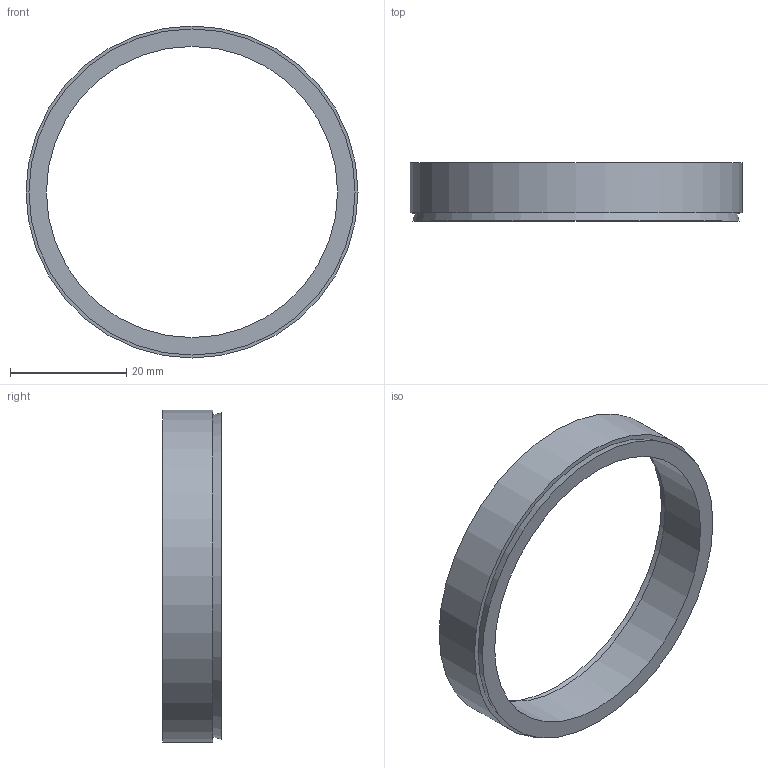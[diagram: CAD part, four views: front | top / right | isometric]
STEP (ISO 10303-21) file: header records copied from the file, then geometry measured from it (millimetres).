
FILE_DESCRIPTION( ( 'Unknown' ), '1' );
FILE_NAME( 'C:/Dokumente und Einstellungen/Sven/Desktop/homepage/cad - homepage/KBS50/KBS 50 - 50 x 57.stp', 'Unknown', ( 'Unknown' ), ( 'Unknown' ), 'XStep 1.0', 'Unknown', ' ' );
FILE_SCHEMA( ( 'automotive_design' ) );
Length unit declared in the file: millimetre
Products named in the file (1): 1
Bounding box: 57 x 10 x 57 mm (x, y, z)
Volume: 5565 mm3; surface area: 4670.2 mm2
Topology: 1 solids, 1 shells, 8 faces, 12 edges, 8 vertices
Faces by surface type: plane 4, cylinder 2, cone 2
Full cylindrical faces by diameter (mm): 50 x1, 57 x1
Entity records: 248 total; most frequent: DIRECTION 34, CARTESIAN_POINT 25, AXIS2_PLACEMENT_3D 17, EDGE_LOOP 16, ORIENTED_EDGE 16, FACE_OUTER_BOUND 10, STYLED_ITEM 8, PRESENTATION_STYLE_ASSIGNMENT 8
